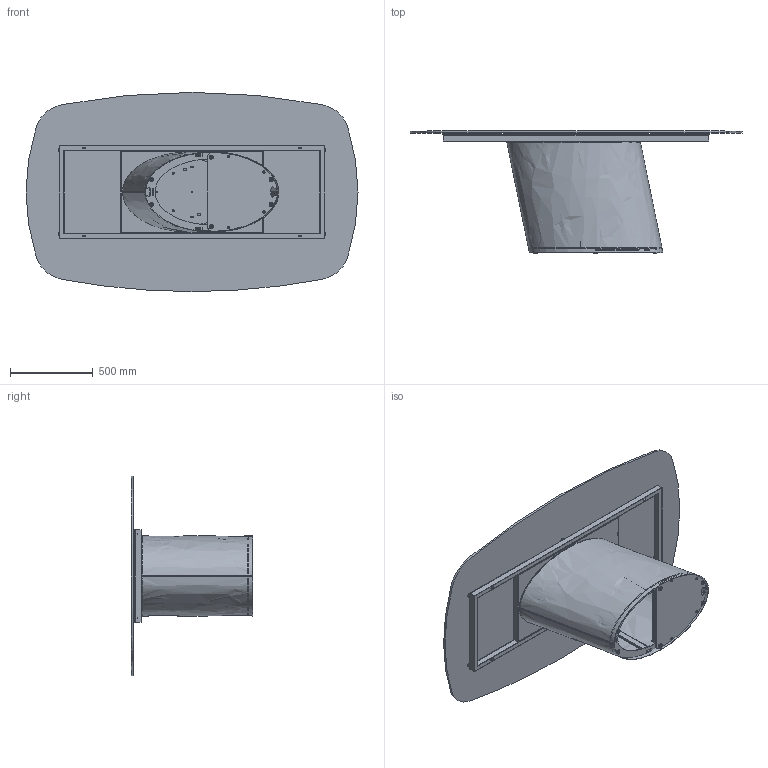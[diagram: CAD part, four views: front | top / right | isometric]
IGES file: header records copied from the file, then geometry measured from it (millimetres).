
Start section: SolidWorks IGES file using analytic representation for surfaces
Global section: file name: Y:\eforma\TECNICO\SOLIDWORKS\E-FORMA\1-TAVOLI\DORADO\02 parts\DO41G.IGS; native system: SolidWorks 2022; preprocessor: SolidWorks 2022; author: eforma.tech; date: 240806.151344; units: millimetre
Bounding box: 2000 x 734 x 1200 mm (x, y, z)
Volume: 38181420.3 mm3; surface area: 11667032.2 mm2
Topology: 57 solids, 57 shells, 1293 faces, 3079 edges, 1910 vertices
Faces by surface type: revolution 799, plane 468, bspline 26
